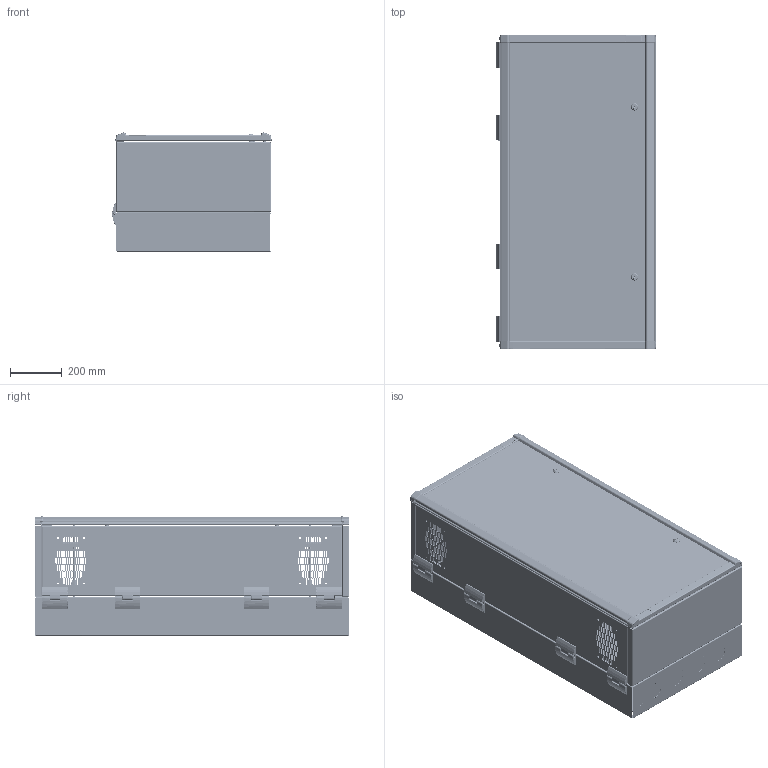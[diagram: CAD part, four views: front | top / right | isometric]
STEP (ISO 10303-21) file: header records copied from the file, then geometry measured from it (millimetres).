
FILE_DESCRIPTION (( 'STEP AP203' ), '1' );
FILE_NAME ('ewmw482418.STEP', '2018-06-15T17:05:37', ( '' ), ( '' ), 'SwSTEP 2.0', 'SolidWorks 2014', '' );
FILE_SCHEMA (( 'CONFIG_CONTROL_DESIGN' ));
Length unit declared in the file: millimetre
Products named in the file (33): 89066979_WITH STAKE; 87933969; 99414156; 87936656_87935633; 89091800; 87931598; 87937614_Access Plus wdo dr; 87934150_87931289; 89066980; 87932394_87932394; 87928600; 87933472_87931287; 60127314; 87931593; 89069243; 87937812; 89113746; 89072125_87931339; 87937614; 87931285_87931285; ewmw482418; 89066977_AS REAMED; 87934217; 87931293_87931293; 87935062_87935062; 87540581; 87933941_87933352; 87931299_87931299; 87936660_87936660; 89066978; 87934797; 87933389_Access Plus wdo dr; 87936658_87936658
Assembly tree (80 placements, depth 4):
  ewmw482418
    87936656_87935633
      87935062_87935062  x2
      87936660_87936660
      87936658_87936658
    87934217
      87934150_87931289
      87933472_87931287  x2
      87937812  x2
      87931285_87931285  x2
      87931293_87931293  x2
      87931299_87931299  x2
      87937614_Access Plus wdo dr
        87933389_Access Plus wdo dr
        99414156
      87928600
      89069243  x8
      87937614
        87933389_Access Plus wdo dr
        99414156
    87934797
      87933941_87933352
    87933969  x2
    87931598  x2
    87932394_87932394  x2
    87931593  x2
    89072125_87931339  x2
    89066978  x4
      89066977_AS REAMED
      87540581
    89066980  x4
      89066979_WITH STAKE
      89091800
      87540581
    60127314  x16
    89113746  x4
Bounding box: 618.84 x 1220 x 462.17 mm (x, y, z)
Volume: 11479266.5 mm3; surface area: 8636015.9 mm2
Topology: 153 solids, 153 shells, 14238 faces, 36918 edges, 22912 vertices
Faces by surface type: plane 5570, cylinder 5268, bspline 1574, torus 716, cone 682, sphere 428
Entity records: 263514 total; most frequent: CARTESIAN_POINT 76859, ORIENTED_EDGE 38920, DIRECTION 37301, EDGE_CURVE 19460, AXIS2_PLACEMENT_3D 13312, VERTEX_POINT 12273, LINE 10677, VECTOR 10677
